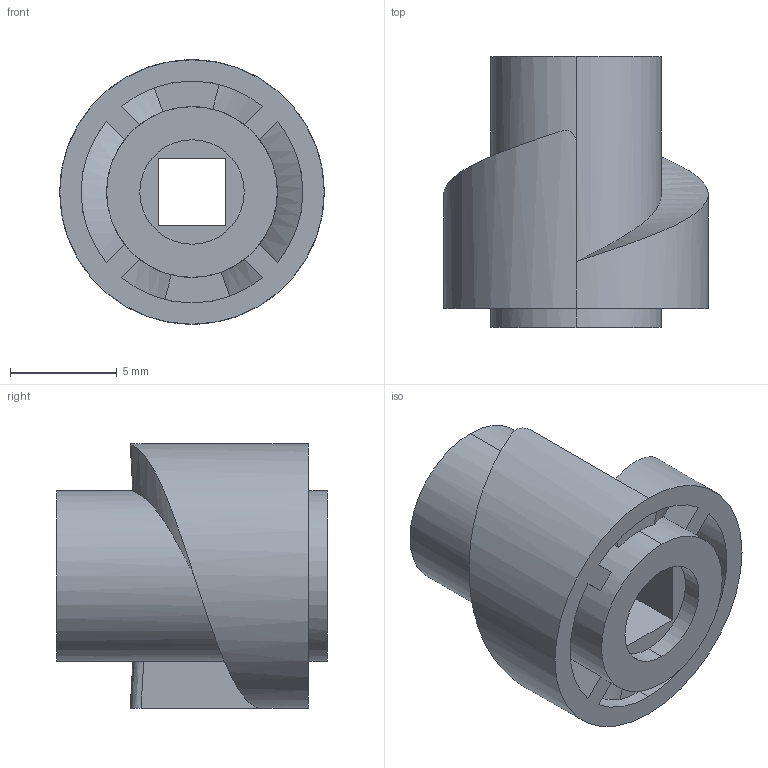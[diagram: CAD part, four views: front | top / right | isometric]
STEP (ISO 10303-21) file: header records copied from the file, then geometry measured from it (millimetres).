
FILE_DESCRIPTION (( 'STEP AP214' ), '1' );
FILE_NAME ('228-2500-1446 Rev2.STEP', '2016-11-22T16:34:53', ( '' ), ( '' ), 'SwSTEP 2.0', 'SolidWorks 2016', '' );
FILE_SCHEMA (( 'AUTOMOTIVE_DESIGN' ));
Length unit declared in the file: millimetre
Products named in the file (1): 228-2500-1446 Rev2
Bounding box: 12.4 x 12.7 x 12.4 mm (x, y, z)
Volume: 738.7 mm3; surface area: 1004.7 mm2
Topology: 1 solids, 1 shells, 48 faces, 125 edges, 82 vertices
Faces by surface type: plane 23, cylinder 15, bspline 10
Entity records: 2197 total; most frequent: CARTESIAN_POINT 1078, ORIENTED_EDGE 250, DIRECTION 197, EDGE_CURVE 125, VERTEX_POINT 82, AXIS2_PLACEMENT_3D 69, VECTOR 59, LINE 59
